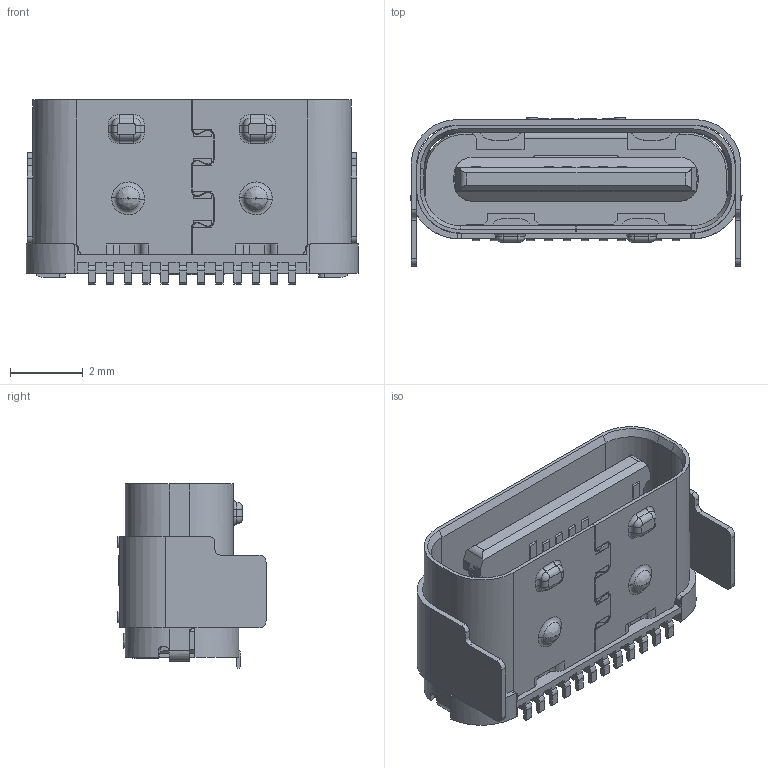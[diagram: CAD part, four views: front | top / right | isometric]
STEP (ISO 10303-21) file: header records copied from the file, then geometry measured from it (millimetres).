
FILE_DESCRIPTION (( 'STEP AP203' ), '1' );
FILE_NAME ('U5457-12PN4.75L.STEP', '2026-09-01T09:52:16', ( '' ), ( '' ), 'SwSTEP 2.0', 'SolidWorks 2024', '' );
FILE_SCHEMA (( 'CONFIG_CONTROL_DESIGN' ));
Length unit declared in the file: millimetre
Products named in the file (1): U5457-12PN4.75L
Bounding box: 9.1 x 4.06 x 5.05 mm (x, y, z)
Volume: 62.7 mm3; surface area: 333.5 mm2
Topology: 1 solids, 9 shells, 839 faces, 2384 edges, 1550 vertices
Faces by surface type: plane 526, cylinder 216, torus 42, bspline 31, cone 24
Entity records: 29143 total; most frequent: CARTESIAN_POINT 7170, ORIENTED_EDGE 4752, DIRECTION 4412, EDGE_CURVE 2376, VECTOR 1670, LINE 1670, VERTEX_POINT 1546, AXIS2_PLACEMENT_3D 1371
